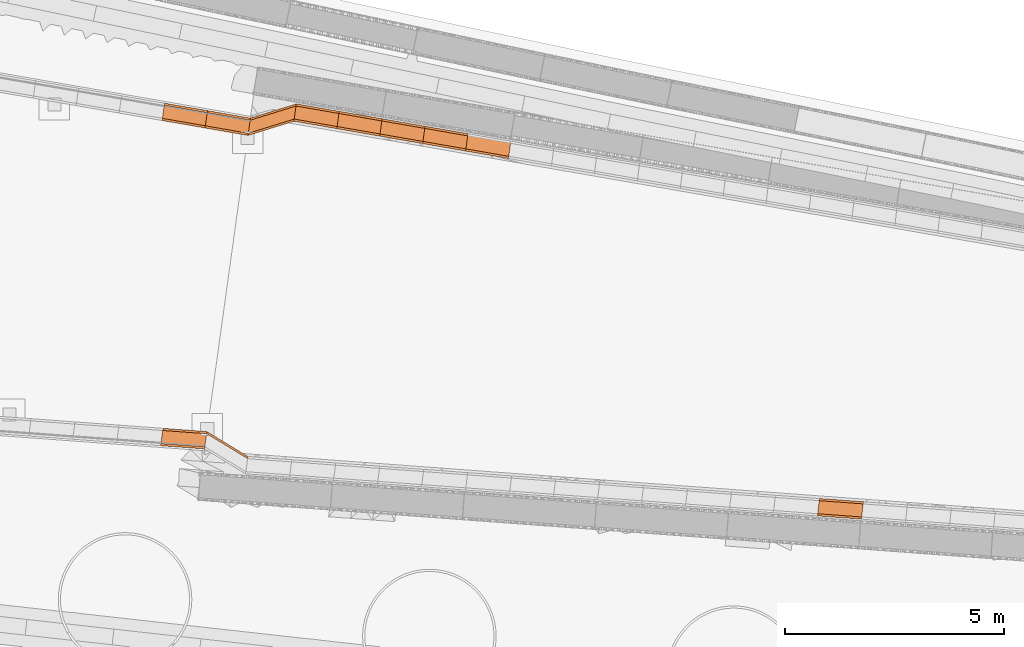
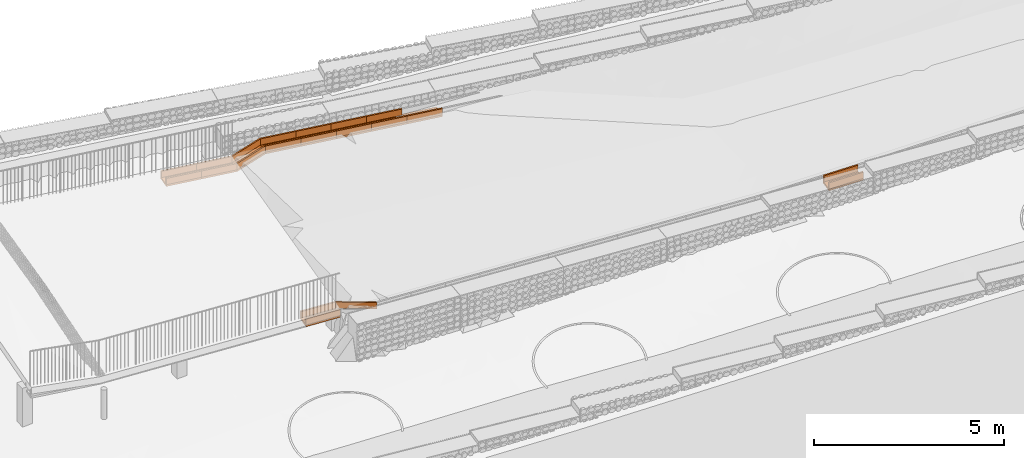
# Not in any storey, part 31 of 45: 30 proxies.
"""IFC4 model written with IfcOpenShell, lengths in metres."""

from ifc_helpers import new_model, si_unit, direction, frame, origin_with_axes, place, context, subcontext, project, spatial, polygons, material, element, save


model = new_model("IFC4")

# Units and contexts
model_context = context("Model", 3, precision=1e-05, world=origin_with_axes(), true_north=direction((0.0, 1.0)))
body_context = subcontext(model_context, "Body", "Model", "MODEL_VIEW")
ifc_project = project(units=[si_unit("VOLUMEUNIT", "CUBIC_METRE"), si_unit("LENGTHUNIT", "METRE"), si_unit("AREAUNIT", "SQUARE_METRE")], contexts=[model_context])

# Site
site_placement = place(None, origin_with_axes())
site = spatial("IfcSite", under=ifc_project, at=site_placement, Name="Lares · Rua das Mercês · artigo 4771")

# Proxies
ifc_material = material(Name="Caleiras · betão", Category="concrete")
proxy_1_placement = place(site_placement, frame((0.0, 0.0, 0.0), z_axis=(0.0, 0.0, 1.0), x_axis=(1.0, -1.03767253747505e-17, 0.0)))
element("IfcBuildingElementProxy", 1, at=proxy_1_placement, inside=site, material=ifc_material, Name="Acesso · canal lateral", ObjectType="Acesso · canal lateral", PredefinedType="USERDEFINED", context=body_context, shape_type="Tessellation", body=[
    polygons([(54.6772387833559, 2.65131761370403, 15.226), (54.7324360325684, 3.04749088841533, 15.226), (55.7364373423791, 2.97370285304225, 15.227), (55.6812404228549, 2.57752953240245, 15.227), (54.6772387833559, 2.65131761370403, 15.286), (54.7324360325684, 3.04749088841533, 15.286), (55.7364373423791, 2.97370285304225, 15.287), (55.6812404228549, 2.57752953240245, 15.287)], [[[4, 3, 2, 1]], [[5, 6, 7, 8]], [[1, 2, 6, 5]], [[2, 3, 7, 6]], [[3, 4, 8, 7]], [[4, 1, 5, 8]]]),
])
proxy_2_placement = place(site_placement, frame((0.0, 0.0, 0.0), z_axis=(0.0, 0.0, 1.0), x_axis=(1.0, -1.03767253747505e-17, 0.0)))
element("IfcBuildingElementProxy", 2, at=proxy_2_placement, inside=site, material=ifc_material, Name="Acesso · canal lateral", ObjectType="Acesso · canal lateral", PredefinedType="USERDEFINED", context=body_context, shape_type="Tessellation", body=[
    polygons([(54.6772387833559, 2.65131761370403, 15.286), (54.6841384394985, 2.70083927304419, 15.286), (55.688140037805, 2.62705119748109, 15.287), (55.6812404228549, 2.57752953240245, 15.287), (54.6772387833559, 2.65131761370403, 15.486), (54.6841384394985, 2.70083927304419, 15.486), (55.688140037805, 2.62705119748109, 15.487), (55.6812404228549, 2.57752953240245, 15.487)], [[[4, 3, 2, 1]], [[5, 6, 7, 8]], [[1, 2, 6, 5]], [[2, 3, 7, 6]], [[3, 4, 8, 7]], [[4, 1, 5, 8]]]),
])
proxy_3_placement = place(site_placement, frame((0.0, 0.0, 0.0), z_axis=(0.0, 0.0, 1.0), x_axis=(1.0, -1.03767253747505e-17, 0.0)))
element("IfcBuildingElementProxy", 3, at=proxy_3_placement, inside=site, material=ifc_material, Name="Acesso · canal lateral", ObjectType="Acesso · canal lateral", PredefinedType="USERDEFINED", context=body_context, shape_type="Tessellation", body=[
    polygons([(54.7255363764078, 2.99796922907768, 15.286), (54.7324360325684, 3.04749088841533, 15.286), (55.7364373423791, 2.97370285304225, 15.287), (55.7295377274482, 2.92418118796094, 15.287), (54.7255363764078, 2.99796922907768, 15.486), (54.7324360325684, 3.04749088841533, 15.486), (55.7364373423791, 2.97370285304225, 15.487), (55.7295377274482, 2.92418118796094, 15.487)], [[[4, 3, 2, 1]], [[5, 6, 7, 8]], [[1, 2, 6, 5]], [[2, 3, 7, 6]], [[3, 4, 8, 7]], [[4, 1, 5, 8]]]),
])
proxy_4_placement = place(site_placement, frame((0.0, 0.0, 0.0), z_axis=(0.0, 0.0, 1.0), x_axis=(1.0, -1.03767253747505e-17, 0.0)))
element("IfcBuildingElementProxy", 4, at=proxy_4_placement, inside=site, material=ifc_material, Name="Acesso · canal lateral", ObjectType="Acesso · canal lateral", PredefinedType="USERDEFINED", context=body_context, shape_type="Tessellation", body=[
    polygons([(55.7293432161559, 2.92420815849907, 15.287), (55.7361779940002, 2.97373881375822, 15.287), (56.6721545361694, 2.40459935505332, 15.288), (56.6653197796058, 2.35506869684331, 15.288), (55.7293432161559, 2.92420815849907, 15.487), (55.7361779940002, 2.97373881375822, 15.487), (56.6721545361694, 2.40459935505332, 15.488), (56.6653197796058, 2.35506869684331, 15.488)], [[[4, 3, 2, 1]], [[5, 6, 7, 8]], [[1, 2, 6, 5]], [[2, 3, 7, 6]], [[3, 4, 8, 7]], [[4, 1, 5, 8]]]),
])
proxy_5_placement = place(site_placement, frame((0.0, 0.0, 0.0), z_axis=(0.0, 0.0, 1.0), x_axis=(1.0, -1.03767253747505e-17, 0.0)))
element("IfcBuildingElementProxy", 5, at=proxy_5_placement, inside=site, material=ifc_material, Name="Acesso · canal lateral", ObjectType="Acesso · canal lateral", PredefinedType="USERDEFINED", context=body_context, shape_type="Tessellation", body=[
    polygons([(69.6834123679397, 1.04729718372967, 15.3190598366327), (69.7290946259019, 1.44468003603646, 15.3190598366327), (70.7339138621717, 1.37079048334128, 15.360890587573), (70.6882316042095, 0.973407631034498, 15.360890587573), (69.6834123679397, 1.04729718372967, 15.3790598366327), (69.7290946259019, 1.44468003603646, 15.3790598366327), (70.7339138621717, 1.37079048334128, 15.420890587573), (70.6882316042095, 0.973407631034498, 15.420890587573)], [[[4, 3, 2, 1]], [[5, 6, 7, 8]], [[1, 2, 6, 5]], [[2, 3, 7, 6]], [[3, 4, 8, 7]], [[4, 1, 5, 8]]]),
])
proxy_6_placement = place(site_placement, frame((0.0, 0.0, 0.0), z_axis=(0.0, 0.0, 1.0), x_axis=(1.0, -1.03767253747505e-17, 0.0)))
element("IfcBuildingElementProxy", 6, at=proxy_6_placement, inside=site, material=ifc_material, Name="Acesso · canal lateral", ObjectType="Acesso · canal lateral", PredefinedType="USERDEFINED", context=body_context, shape_type="Tessellation", body=[
    polygons([(69.6834123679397, 1.04729718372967, 15.3790598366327), (69.689122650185, 1.09697004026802, 15.3790598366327), (70.6939418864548, 1.02308048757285, 15.420890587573), (70.6882316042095, 0.973407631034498, 15.420890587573), (69.6834123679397, 1.04729718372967, 15.5790598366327), (69.689122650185, 1.09697004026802, 15.5790598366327), (70.6939418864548, 1.02308048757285, 15.620890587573), (70.6882316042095, 0.973407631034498, 15.620890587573)], [[[4, 3, 2, 1]], [[5, 6, 7, 8]], [[1, 2, 6, 5]], [[2, 3, 7, 6]], [[3, 4, 8, 7]], [[4, 1, 5, 8]]]),
])
proxy_7_placement = place(site_placement, frame((0.0, 0.0, 0.0), z_axis=(0.0, 0.0, 1.0), x_axis=(1.0, -1.03767253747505e-17, 0.0)))
element("IfcBuildingElementProxy", 7, at=proxy_7_placement, inside=site, material=ifc_material, Name="Acesso · canal lateral", ObjectType="Acesso · canal lateral", PredefinedType="USERDEFINED", context=body_context, shape_type="Tessellation", body=[
    polygons([(69.7233843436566, 1.39500717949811, 15.3790598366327), (69.7290946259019, 1.44468003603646, 15.3790598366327), (70.7339138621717, 1.37079048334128, 15.420890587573), (70.7282035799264, 1.32111762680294, 15.420890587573), (69.7233843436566, 1.39500717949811, 15.5790598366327), (69.7290946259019, 1.44468003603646, 15.5790598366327), (70.7339138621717, 1.37079048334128, 15.620890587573), (70.7282035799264, 1.32111762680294, 15.620890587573)], [[[4, 3, 2, 1]], [[5, 6, 7, 8]], [[1, 2, 6, 5]], [[2, 3, 7, 6]], [[3, 4, 8, 7]], [[4, 1, 5, 8]]]),
])
proxy_8_placement = place(site_placement, frame((0.0, 0.0, 0.0), z_axis=(0.0, 0.0, 1.0), x_axis=(1.0, -1.03767253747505e-17, 0.0)))
element("IfcBuildingElementProxy", 8, at=proxy_8_placement, inside=site, material=ifc_material, Name="Acesso · canal lateral", ObjectType="Acesso · canal lateral", PredefinedType="USERDEFINED", context=body_context, shape_type="Tessellation", body=[
    polygons([(54.7119214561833, 10.0796347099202, 15.225), (54.7676242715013, 10.4757372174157, 15.225), (55.7486509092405, 10.3053266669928, 15.226), (55.6929477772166, 9.90922420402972, 15.226), (54.7119214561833, 10.0796347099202, 15.285), (54.7676242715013, 10.4757372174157, 15.285), (55.7486509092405, 10.3053266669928, 15.286), (55.6929477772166, 9.90922420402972, 15.286)], [[[4, 3, 2, 1]], [[5, 6, 7, 8]], [[1, 2, 6, 5]], [[2, 3, 7, 6]], [[3, 4, 8, 7]], [[4, 1, 5, 8]]]),
])
proxy_9_placement = place(site_placement, frame((0.0, 0.0, 0.0), z_axis=(0.0, 0.0, 1.0), x_axis=(1.0, -1.03767253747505e-17, 0.0)))
element("IfcBuildingElementProxy", 9, at=proxy_9_placement, inside=site, material=ifc_material, Name="Acesso · canal lateral", ObjectType="Acesso · canal lateral", PredefinedType="USERDEFINED", context=body_context, shape_type="Tessellation", body=[
    polygons([(54.7119214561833, 10.0796347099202, 15.285), (54.7188843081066, 10.1291475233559, 15.285), (55.6999106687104, 9.95873701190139, 15.286), (55.6929477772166, 9.90922420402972, 15.286), (54.7119214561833, 10.0796347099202, 15.485), (54.7188843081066, 10.1291475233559, 15.485), (55.6999106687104, 9.95873701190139, 15.486), (55.6929477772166, 9.90922420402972, 15.486)], [[[4, 3, 2, 1]], [[5, 6, 7, 8]], [[1, 2, 6, 5]], [[2, 3, 7, 6]], [[3, 4, 8, 7]], [[4, 1, 5, 8]]]),
])
proxy_10_placement = place(site_placement, frame((0.0, 0.0, 0.0), z_axis=(0.0, 0.0, 1.0), x_axis=(1.0, -1.03767253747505e-17, 0.0)))
element("IfcBuildingElementProxy", 10, at=proxy_10_placement, inside=site, material=ifc_material, Name="Acesso · canal lateral", ObjectType="Acesso · canal lateral", PredefinedType="USERDEFINED", context=body_context, shape_type="Tessellation", body=[
    polygons([(54.7606614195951, 10.4262244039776, 15.285), (54.7676242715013, 10.4757372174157, 15.285), (55.7486509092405, 10.3053266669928, 15.286), (55.7416880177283, 10.2558138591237, 15.286), (54.7606614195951, 10.4262244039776, 15.485), (54.7676242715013, 10.4757372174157, 15.485), (55.7486509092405, 10.3053266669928, 15.486), (55.7416880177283, 10.2558138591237, 15.486)], [[[4, 3, 2, 1]], [[5, 6, 7, 8]], [[1, 2, 6, 5]], [[2, 3, 7, 6]], [[3, 4, 8, 7]], [[4, 1, 5, 8]]]),
])
proxy_11_placement = place(site_placement, frame((0.0, 0.0, 0.0), z_axis=(0.0, 0.0, 1.0), x_axis=(1.0, -1.03767253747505e-17, 0.0)))
element("IfcBuildingElementProxy", 11, at=proxy_11_placement, inside=site, material=ifc_material, Name="Acesso · canal lateral", ObjectType="Acesso · canal lateral", PredefinedType="USERDEFINED", context=body_context, shape_type="Tessellation", body=[
    polygons([(55.6932008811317, 9.90918877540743, 15.226), (55.7483978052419, 10.3053620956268, 15.226), (56.7294321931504, 10.1349508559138, 15.227), (56.6742349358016, 9.73877758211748, 15.227), (55.6932008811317, 9.90918877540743, 15.286), (55.7483978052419, 10.3053620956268, 15.286), (56.7294321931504, 10.1349508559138, 15.287), (56.6742349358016, 9.73877758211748, 15.287)], [[[4, 3, 2, 1]], [[5, 6, 7, 8]], [[1, 2, 6, 5]], [[2, 3, 7, 6]], [[3, 4, 8, 7]], [[4, 1, 5, 8]]]),
])
proxy_12_placement = place(site_placement, frame((0.0, 0.0, 0.0), z_axis=(0.0, 0.0, 1.0), x_axis=(1.0, -1.03767253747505e-17, 0.0)))
element("IfcBuildingElementProxy", 12, at=proxy_12_placement, inside=site, material=ifc_material, Name="Acesso · canal lateral", ObjectType="Acesso · canal lateral", PredefinedType="USERDEFINED", context=body_context, shape_type="Tessellation", body=[
    polygons([(55.6932008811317, 9.90918877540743, 15.286), (55.7001004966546, 9.95871044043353, 15.286), (56.6811345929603, 9.78829924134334, 15.287), (56.6742349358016, 9.73877758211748, 15.287), (55.6932008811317, 9.90918877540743, 15.486), (55.7001004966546, 9.95871044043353, 15.486), (56.6811345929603, 9.78829924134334, 15.487), (56.6742349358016, 9.73877758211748, 15.487)], [[[4, 3, 2, 1]], [[5, 6, 7, 8]], [[1, 2, 6, 5]], [[2, 3, 7, 6]], [[3, 4, 8, 7]], [[4, 1, 5, 8]]]),
])
proxy_13_placement = place(site_placement, frame((0.0, 0.0, 0.0), z_axis=(0.0, 0.0, 1.0), x_axis=(1.0, -1.03767253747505e-17, 0.0)))
element("IfcBuildingElementProxy", 13, at=proxy_13_placement, inside=site, material=ifc_material, Name="Acesso · canal lateral", ObjectType="Acesso · canal lateral", PredefinedType="USERDEFINED", context=body_context, shape_type="Tessellation", body=[
    polygons([(55.7414981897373, 10.255840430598, 15.286), (55.7483978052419, 10.3053620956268, 15.286), (56.7294321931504, 10.1349508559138, 15.287), (56.7225325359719, 10.0854291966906, 15.287), (55.7414981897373, 10.255840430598, 15.486), (55.7483978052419, 10.3053620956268, 15.486), (56.7294321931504, 10.1349508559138, 15.487), (56.7225325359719, 10.0854291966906, 15.487)], [[[4, 3, 2, 1]], [[5, 6, 7, 8]], [[1, 2, 6, 5]], [[2, 3, 7, 6]], [[3, 4, 8, 7]], [[4, 1, 5, 8]]]),
])
proxy_14_placement = place(site_placement, frame((0.0, 0.0, 0.0), z_axis=(0.0, 0.0, 1.0), x_axis=(1.0, -1.03767253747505e-17, 0.0)))
element("IfcBuildingElementProxy", 14, at=proxy_14_placement, inside=site, material=ifc_material, Name="Acesso · canal lateral", ObjectType="Acesso · canal lateral", PredefinedType="USERDEFINED", context=body_context, shape_type="Tessellation", body=[
    polygons([(56.674494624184, 9.73874157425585, 15.227), (56.729172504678, 10.1349868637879, 15.227), (57.7782316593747, 10.4599270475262, 15.228), (57.7235536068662, 10.0636817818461, 15.228), (56.674494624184, 9.73874157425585, 15.287), (56.729172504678, 10.1349868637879, 15.287), (57.7782316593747, 10.4599270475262, 15.288), (57.7235536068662, 10.0636817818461, 15.288)], [[[4, 3, 2, 1]], [[5, 6, 7, 8]], [[1, 2, 6, 5]], [[2, 3, 7, 6]], [[3, 4, 8, 7]], [[4, 1, 5, 8]]]),
])
proxy_15_placement = place(site_placement, frame((0.0, 0.0, 0.0), z_axis=(0.0, 0.0, 1.0), x_axis=(1.0, -1.03767253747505e-17, 0.0)))
element("IfcBuildingElementProxy", 15, at=proxy_15_placement, inside=site, material=ifc_material, Name="Acesso · canal lateral", ObjectType="Acesso · canal lateral", PredefinedType="USERDEFINED", context=body_context, shape_type="Tessellation", body=[
    polygons([(56.674494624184, 9.73874157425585, 15.287), (56.6813293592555, 9.78827223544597, 15.287), (57.7303883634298, 10.1132124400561, 15.288), (57.7235536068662, 10.0636817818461, 15.288), (56.674494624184, 9.73874157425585, 15.487), (56.6813293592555, 9.78827223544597, 15.487), (57.7303883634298, 10.1132124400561, 15.488), (57.7235536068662, 10.0636817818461, 15.488)], [[[4, 3, 2, 1]], [[5, 6, 7, 8]], [[1, 2, 6, 5]], [[2, 3, 7, 6]], [[3, 4, 8, 7]], [[4, 1, 5, 8]]]),
])
proxy_16_placement = place(site_placement, frame((0.0, 0.0, 0.0), z_axis=(0.0, 0.0, 1.0), x_axis=(1.0, -1.03767253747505e-17, 0.0)))
element("IfcBuildingElementProxy", 16, at=proxy_16_placement, inside=site, material=ifc_material, Name="Acesso · canal lateral", ObjectType="Acesso · canal lateral", PredefinedType="USERDEFINED", context=body_context, shape_type="Tessellation", body=[
    polygons([(56.722337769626, 10.085456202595, 15.287), (56.729172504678, 10.1349868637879, 15.287), (57.7782316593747, 10.4599270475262, 15.288), (57.7713969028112, 10.4103963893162, 15.288), (56.722337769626, 10.085456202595, 15.487), (56.729172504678, 10.1349868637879, 15.487), (57.7782316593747, 10.4599270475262, 15.488), (57.7713969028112, 10.4103963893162, 15.488)], [[[4, 3, 2, 1]], [[5, 6, 7, 8]], [[1, 2, 6, 5]], [[2, 3, 7, 6]], [[3, 4, 8, 7]], [[4, 1, 5, 8]]]),
])
proxy_17_placement = place(site_placement, frame((0.0, 0.0, 0.0), z_axis=(0.0, 0.0, 1.0), x_axis=(1.0, -1.03767253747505e-17, 0.0)))
element("IfcBuildingElementProxy", 17, at=proxy_17_placement, inside=site, material=ifc_material, Name="Acesso · canal lateral", ObjectType="Acesso · canal lateral", PredefinedType="USERDEFINED", context=body_context, shape_type="Tessellation", body=[
    polygons([(57.723819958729, 10.0636452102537, 15.228), (57.7779653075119, 10.4599636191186, 15.228), (58.7583412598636, 10.2896431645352, 15.229), (58.7041959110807, 9.89332475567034, 15.229), (57.723819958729, 10.0636452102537, 15.288), (57.7779653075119, 10.4599636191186, 15.288), (58.7583412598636, 10.2896431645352, 15.289), (58.7041959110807, 9.89332475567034, 15.289)], [[[4, 3, 2, 1]], [[5, 6, 7, 8]], [[1, 2, 6, 5]], [[2, 3, 7, 6]], [[3, 4, 8, 7]], [[4, 1, 5, 8]]]),
])
proxy_18_placement = place(site_placement, frame((0.0, 0.0, 0.0), z_axis=(0.0, 0.0, 1.0), x_axis=(1.0, -1.03767253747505e-17, 0.0)))
element("IfcBuildingElementProxy", 18, at=proxy_18_placement, inside=site, material=ifc_material, Name="Acesso · canal lateral", ObjectType="Acesso · canal lateral", PredefinedType="USERDEFINED", context=body_context, shape_type="Tessellation", body=[
    polygons([(57.723819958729, 10.0636452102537, 15.288), (57.7305881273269, 10.1131850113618, 15.288), (58.7109640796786, 9.94286455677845, 15.289), (58.7041959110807, 9.89332475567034, 15.289), (57.723819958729, 10.0636452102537, 15.488), (57.7305881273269, 10.1131850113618, 15.488), (58.7109640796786, 9.94286455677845, 15.489), (58.7041959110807, 9.89332475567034, 15.489)], [[[4, 3, 2, 1]], [[5, 6, 7, 8]], [[1, 2, 6, 5]], [[2, 3, 7, 6]], [[3, 4, 8, 7]], [[4, 1, 5, 8]]]),
])
proxy_19_placement = place(site_placement, frame((0.0, 0.0, 0.0), z_axis=(0.0, 0.0, 1.0), x_axis=(1.0, -1.03767253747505e-17, 0.0)))
element("IfcBuildingElementProxy", 19, at=proxy_19_placement, inside=site, material=ifc_material, Name="Acesso · canal lateral", ObjectType="Acesso · canal lateral", PredefinedType="USERDEFINED", context=body_context, shape_type="Tessellation", body=[
    polygons([(57.7711971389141, 10.4104238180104, 15.288), (57.7779653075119, 10.4599636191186, 15.288), (58.7583412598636, 10.2896431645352, 15.289), (58.7515730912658, 10.2401033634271, 15.289), (57.7711971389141, 10.4104238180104, 15.488), (57.7779653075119, 10.4599636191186, 15.488), (58.7583412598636, 10.2896431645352, 15.489), (58.7515730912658, 10.2401033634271, 15.489)], [[[4, 3, 2, 1]], [[5, 6, 7, 8]], [[1, 2, 6, 5]], [[2, 3, 7, 6]], [[3, 4, 8, 7]], [[4, 1, 5, 8]]]),
])
proxy_20_placement = place(site_placement, frame((0.0, 0.0, 0.0), z_axis=(0.0, 0.0, 1.0), x_axis=(1.0, -1.03767253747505e-17, 0.0)))
element("IfcBuildingElementProxy", 20, at=proxy_20_placement, inside=site, material=ifc_material, Name="Acesso · canal lateral", ObjectType="Acesso · canal lateral", PredefinedType="USERDEFINED", context=body_context, shape_type="Tessellation", body=[
    polygons([(58.7044693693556, 9.89328758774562, 15.229), (58.7580678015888, 10.2896803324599, 15.229), (59.7384343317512, 10.1193606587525, 15.23), (59.684835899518, 9.72296791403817, 15.23), (58.7044693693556, 9.89328758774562, 15.289), (58.7580678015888, 10.2896803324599, 15.289), (59.7384343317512, 10.1193606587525, 15.29), (59.684835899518, 9.72296791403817, 15.29)], [[[4, 3, 2, 1]], [[5, 6, 7, 8]], [[1, 2, 6, 5]], [[2, 3, 7, 6]], [[3, 4, 8, 7]], [[4, 1, 5, 8]]]),
])
proxy_21_placement = place(site_placement, frame((0.0, 0.0, 0.0), z_axis=(0.0, 0.0, 1.0), x_axis=(1.0, -1.03767253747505e-17, 0.0)))
element("IfcBuildingElementProxy", 21, at=proxy_21_placement, inside=site, material=ifc_material, Name="Acesso · canal lateral", ObjectType="Acesso · canal lateral", PredefinedType="USERDEFINED", context=body_context, shape_type="Tessellation", body=[
    polygons([(58.7044693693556, 9.89328758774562, 15.289), (58.7111691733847, 9.94283668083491, 15.289), (59.6915357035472, 9.77251700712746, 15.29), (59.684835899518, 9.72296791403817, 15.29), (58.7044693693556, 9.89328758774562, 15.489), (58.7111691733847, 9.94283668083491, 15.489), (59.6915357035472, 9.77251700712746, 15.49), (59.684835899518, 9.72296791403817, 15.49)], [[[4, 3, 2, 1]], [[5, 6, 7, 8]], [[1, 2, 6, 5]], [[2, 3, 7, 6]], [[3, 4, 8, 7]], [[4, 1, 5, 8]]]),
])
proxy_22_placement = place(site_placement, frame((0.0, 0.0, 0.0), z_axis=(0.0, 0.0, 1.0), x_axis=(1.0, -1.03767253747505e-17, 0.0)))
element("IfcBuildingElementProxy", 22, at=proxy_22_placement, inside=site, material=ifc_material, Name="Acesso · canal lateral", ObjectType="Acesso · canal lateral", PredefinedType="USERDEFINED", context=body_context, shape_type="Tessellation", body=[
    polygons([(58.7513679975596, 10.2401312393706, 15.289), (58.7580678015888, 10.2896803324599, 15.289), (59.7384343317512, 10.1193606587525, 15.29), (59.731734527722, 10.0698115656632, 15.29), (58.7513679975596, 10.2401312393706, 15.489), (58.7580678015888, 10.2896803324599, 15.489), (59.7384343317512, 10.1193606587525, 15.49), (59.731734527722, 10.0698115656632, 15.49)], [[[4, 3, 2, 1]], [[5, 6, 7, 8]], [[1, 2, 6, 5]], [[2, 3, 7, 6]], [[3, 4, 8, 7]], [[4, 1, 5, 8]]]),
])
proxy_23_placement = place(site_placement, frame((0.0, 0.0, 0.0), z_axis=(0.0, 0.0, 1.0), x_axis=(1.0, -1.03767253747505e-17, 0.0)))
element("IfcBuildingElementProxy", 23, at=proxy_23_placement, inside=site, material=ifc_material, Name="Acesso · canal lateral", ObjectType="Acesso · canal lateral", PredefinedType="USERDEFINED", context=body_context, shape_type="Tessellation", body=[
    polygons([(59.6851167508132, 9.72293014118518, 15.23), (59.738153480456, 10.1193984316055, 15.23), (60.7185102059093, 9.9490795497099, 15.231), (60.6654734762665, 9.55261125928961, 15.231), (59.6851167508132, 9.72293014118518, 15.29), (59.738153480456, 10.1193984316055, 15.29), (60.7185102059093, 9.9490795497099, 15.291), (60.6654734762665, 9.55261125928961, 15.291)], [[[4, 3, 2, 1]], [[5, 6, 7, 8]], [[1, 2, 6, 5]], [[2, 3, 7, 6]], [[3, 4, 8, 7]], [[4, 1, 5, 8]]]),
])
proxy_24_placement = place(site_placement, frame((0.0, 0.0, 0.0), z_axis=(0.0, 0.0, 1.0), x_axis=(1.0, -1.03767253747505e-17, 0.0)))
element("IfcBuildingElementProxy", 24, at=proxy_24_placement, inside=site, material=ifc_material, Name="Acesso · canal lateral", ObjectType="Acesso · canal lateral", PredefinedType="USERDEFINED", context=body_context, shape_type="Tessellation", body=[
    polygons([(59.6851167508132, 9.72293014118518, 15.29), (59.6917463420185, 9.77248867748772, 15.29), (60.6721030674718, 9.60216979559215, 15.291), (60.6654734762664, 9.55261125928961, 15.291), (59.6851167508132, 9.72293014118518, 15.49), (59.6917463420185, 9.77248867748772, 15.49), (60.6721030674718, 9.60216979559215, 15.491), (60.6654734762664, 9.55261125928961, 15.491)], [[[4, 3, 2, 1]], [[5, 6, 7, 8]], [[1, 2, 6, 5]], [[2, 3, 7, 6]], [[3, 4, 8, 7]], [[4, 1, 5, 8]]]),
])
proxy_25_placement = place(site_placement, frame((0.0, 0.0, 0.0), z_axis=(0.0, 0.0, 1.0), x_axis=(1.0, -1.03767253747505e-17, 0.0)))
element("IfcBuildingElementProxy", 25, at=proxy_25_placement, inside=site, material=ifc_material, Name="Acesso · canal lateral", ObjectType="Acesso · canal lateral", PredefinedType="USERDEFINED", context=body_context, shape_type="Tessellation", body=[
    polygons([(59.7315238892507, 10.0698398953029, 15.29), (59.7381534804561, 10.1193984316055, 15.29), (60.7185102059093, 9.9490795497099, 15.291), (60.711880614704, 9.89952101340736, 15.291), (59.7315238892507, 10.0698398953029, 15.49), (59.7381534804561, 10.1193984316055, 15.49), (60.7185102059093, 9.9490795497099, 15.491), (60.711880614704, 9.89952101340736, 15.491)], [[[4, 3, 2, 1]], [[5, 6, 7, 8]], [[1, 2, 6, 5]], [[2, 3, 7, 6]], [[3, 4, 8, 7]], [[4, 1, 5, 8]]]),
])
proxy_26_placement = place(site_placement, frame((0.0, 0.0, 0.0), z_axis=(0.0, 0.0, 1.0), x_axis=(1.0, -1.03767253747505e-17, 0.0)))
element("IfcBuildingElementProxy", 26, at=proxy_26_placement, inside=site, material=ifc_material, Name="Acesso · canal lateral", ObjectType="Acesso · canal lateral", PredefinedType="USERDEFINED", context=body_context, shape_type="Tessellation", body=[
    polygons([(60.6657620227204, 9.55257287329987, 15.231), (60.7182216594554, 9.94911793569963, 15.231), (61.698568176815, 9.778799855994, 15.232), (61.6461085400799, 9.38225479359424, 15.232), (60.6657620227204, 9.55257287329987, 15.291), (60.7182216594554, 9.94911793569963, 15.291), (61.698568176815, 9.778799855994, 15.292), (61.6461085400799, 9.38225479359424, 15.292)], [[[4, 3, 2, 1]], [[5, 6, 7, 8]], [[1, 2, 6, 5]], [[2, 3, 7, 6]], [[3, 4, 8, 7]], [[4, 1, 5, 8]]]),
])
proxy_27_placement = place(site_placement, frame((0.0, 0.0, 0.0), z_axis=(0.0, 0.0, 1.0), x_axis=(1.0, -1.03767253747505e-17, 0.0)))
element("IfcBuildingElementProxy", 27, at=proxy_27_placement, inside=site, material=ifc_material, Name="Acesso · canal lateral", ObjectType="Acesso · canal lateral", PredefinedType="USERDEFINED", context=body_context, shape_type="Tessellation", body=[
    polygons([(60.6657620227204, 9.55257287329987, 15.291), (60.6723194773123, 9.60214100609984, 15.291), (61.6526659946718, 9.43182292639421, 15.292), (61.6461085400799, 9.38225479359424, 15.292), (60.6657620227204, 9.55257287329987, 15.491), (60.6723194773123, 9.60214100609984, 15.491), (61.6526659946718, 9.43182292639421, 15.492), (61.6461085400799, 9.38225479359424, 15.492)], [[[4, 3, 2, 1]], [[5, 6, 7, 8]], [[1, 2, 6, 5]], [[2, 3, 7, 6]], [[3, 4, 8, 7]], [[4, 1, 5, 8]]]),
])
proxy_28_placement = place(site_placement, frame((0.0, 0.0, 0.0), z_axis=(0.0, 0.0, 1.0), x_axis=(1.0, -1.03767253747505e-17, 0.0)))
element("IfcBuildingElementProxy", 28, at=proxy_28_placement, inside=site, material=ifc_material, Name="Acesso · canal lateral", ObjectType="Acesso · canal lateral", PredefinedType="USERDEFINED", context=body_context, shape_type="Tessellation", body=[
    polygons([(60.7116642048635, 9.89954980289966, 15.291), (60.7182216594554, 9.94911793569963, 15.291), (61.698568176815, 9.778799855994, 15.292), (61.6920107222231, 9.72923172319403, 15.292), (60.7116642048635, 9.89954980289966, 15.491), (60.7182216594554, 9.94911793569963, 15.491), (61.698568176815, 9.778799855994, 15.492), (61.6920107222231, 9.72923172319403, 15.492)], [[[4, 3, 2, 1]], [[5, 6, 7, 8]], [[1, 2, 6, 5]], [[2, 3, 7, 6]], [[3, 4, 8, 7]], [[4, 1, 5, 8]]]),
])
proxy_29_placement = place(site_placement, frame((0.0, 0.0, 0.0), z_axis=(0.0, 0.0, 1.0), x_axis=(1.0, -1.03767253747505e-17, 0.0)))
element("IfcBuildingElementProxy", 29, at=proxy_29_placement, inside=site, material=ifc_material, Name="Acesso · canal lateral", ObjectType="Acesso · canal lateral", PredefinedType="USERDEFINED", context=body_context, shape_type="Tessellation", body=[
    polygons([(61.6464051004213, 9.38221578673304, 15.232), (61.6982716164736, 9.77883886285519, 15.232), (62.6786075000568, 9.6085215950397, 15.233), (62.6267409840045, 9.21189851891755, 15.233), (61.6464051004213, 9.38221578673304, 15.292), (61.6982716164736, 9.77883886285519, 15.292), (62.6786075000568, 9.6085215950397, 15.293), (62.6267409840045, 9.21189851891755, 15.293)], [[[4, 3, 2, 1]], [[5, 6, 7, 8]], [[1, 2, 6, 5]], [[2, 3, 7, 6]], [[3, 4, 8, 7]], [[4, 1, 5, 8]]]),
])
proxy_30_placement = place(site_placement, frame((0.0, 0.0, 0.0), z_axis=(0.0, 0.0, 1.0), x_axis=(1.0, -1.03767253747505e-17, 0.0)))
element("IfcBuildingElementProxy", 30, at=proxy_30_placement, inside=site, material=ifc_material, Name="Acesso · canal lateral", ObjectType="Acesso · canal lateral", PredefinedType="USERDEFINED", context=body_context, shape_type="Tessellation", body=[
    polygons([(61.6464051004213, 9.38221578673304, 15.292), (61.6528884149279, 9.43179367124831, 15.292), (62.633224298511, 9.26147640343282, 15.293), (62.6267409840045, 9.21189851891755, 15.293), (61.6464051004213, 9.38221578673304, 15.492), (61.6528884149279, 9.43179367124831, 15.492), (62.633224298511, 9.26147640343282, 15.493), (62.6267409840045, 9.21189851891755, 15.493)], [[[4, 3, 2, 1]], [[5, 6, 7, 8]], [[1, 2, 6, 5]], [[2, 3, 7, 6]], [[3, 4, 8, 7]], [[4, 1, 5, 8]]]),
])

save(model, "model.ifc")
